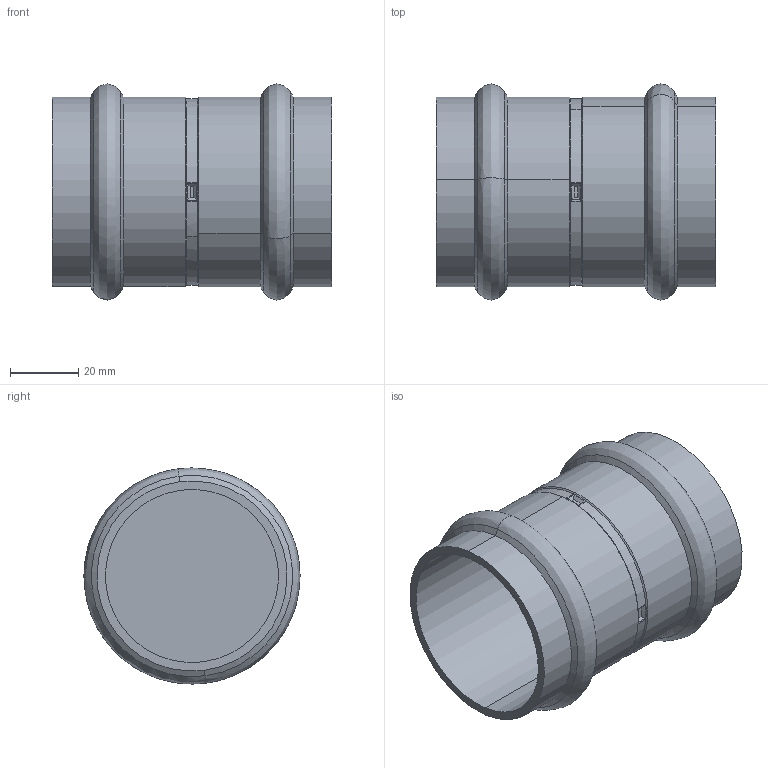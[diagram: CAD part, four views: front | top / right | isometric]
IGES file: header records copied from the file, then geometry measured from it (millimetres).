
Start section: 3D InterOp IGES (v. 2024 1.0.1), Spatial Corp. Copyright (c) 1999-2020.
Global section: file name: 704342.igs; native system: Spatial Corp.; preprocessor: 3D InterOp ACIS/IGES; author: CAD-PIM; organization: TransMagic, Inc.; date: 20250429.114056; units: millimetre
Bounding box: 82 x 63.32 x 63.32 mm (x, y, z)
Volume: 51455.8 mm3; surface area: 33300.6 mm2
Topology: 1 solids, 1 shells, 80 faces, 212 edges, 136 vertices
Faces by surface type: bspline 80
